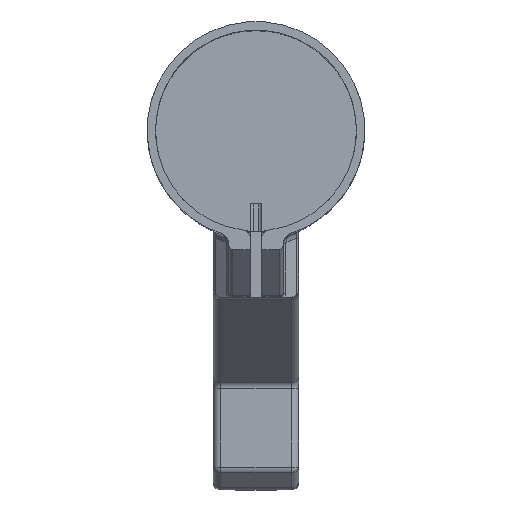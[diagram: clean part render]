
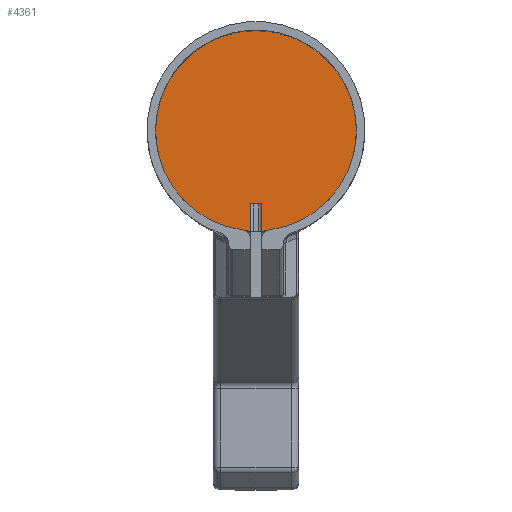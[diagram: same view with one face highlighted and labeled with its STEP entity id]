
A CAD part, top view. The second image highlights one B-rep face of the part: STEP entity #4361.
In plain terms, the highlighted planar face has unit normal (0, 0, 1).
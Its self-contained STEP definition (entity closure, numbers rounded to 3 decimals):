
#125=PLANE('',#4557);
#230=LINE('',#5970,#459);
#231=LINE('',#5972,#460);
#232=LINE('',#5974,#461);
#459=VECTOR('',#4945,1000.);
#460=VECTOR('',#4946,1000.);
#461=VECTOR('',#4947,1000.);
#697=ORIENTED_EDGE('',*,*,#1648,.T.);
#698=ORIENTED_EDGE('',*,*,#1637,.T.);
#699=ORIENTED_EDGE('',*,*,#1649,.F.);
#700=ORIENTED_EDGE('',*,*,#1650,.T.);
#1637=EDGE_CURVE('',#2113,#2114,#2401,.T.);
#1648=EDGE_CURVE('',#2123,#2113,#230,.T.);
#1649=EDGE_CURVE('',#2124,#2114,#231,.T.);
#1650=EDGE_CURVE('',#2124,#2123,#232,.T.);
#2113=VERTEX_POINT('',#5925);
#2114=VERTEX_POINT('',#5926);
#2123=VERTEX_POINT('',#5971);
#2124=VERTEX_POINT('',#5973);
#2401=CIRCLE('',#4555,25.8);
#2553=EDGE_LOOP('',(#697,#698,#699,#700));
#2757=FACE_BOUND('',#2553,.T.);
#4361=ADVANCED_FACE('',(#2757),#125,.T.);
#4555=AXIS2_PLACEMENT_3D('',#5924,#4933,#4934);
#4557=AXIS2_PLACEMENT_3D('',#5969,#4943,#4944);
#4933=DIRECTION('',(0.,0.,1.));
#4934=DIRECTION('',(1.,0.,0.));
#4943=DIRECTION('',(0.,0.,1.));
#4944=DIRECTION('',(1.,0.,0.));
#4945=DIRECTION('',(0.,-1.,0.));
#4946=DIRECTION('',(0.,-1.,0.));
#4947=DIRECTION('',(1.,0.,0.));
#5924=CARTESIAN_POINT('',(0.,0.,61.013));
#5925=CARTESIAN_POINT('',(1.5,-25.756,61.013));
#5926=CARTESIAN_POINT('',(-1.5,-25.756,61.013));
#5969=CARTESIAN_POINT('',(0.,0.,61.013));
#5970=CARTESIAN_POINT('',(1.5,-18.693,61.013));
#5971=CARTESIAN_POINT('',(1.5,-18.693,61.013));
#5972=CARTESIAN_POINT('',(-1.5,-18.693,61.013));
#5973=CARTESIAN_POINT('',(-1.5,-18.693,61.013));
#5974=CARTESIAN_POINT('',(-1.5,-18.693,61.013));
